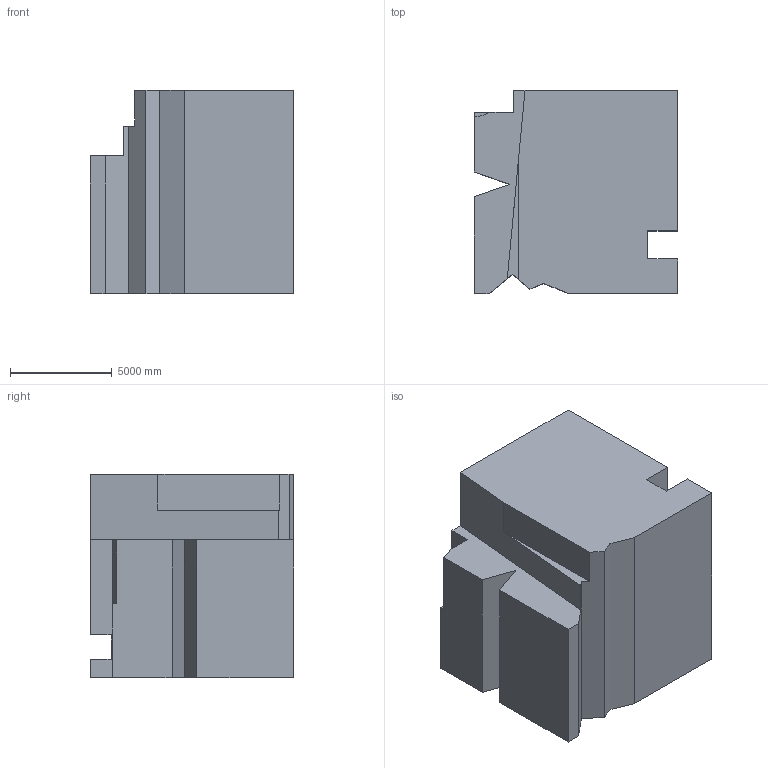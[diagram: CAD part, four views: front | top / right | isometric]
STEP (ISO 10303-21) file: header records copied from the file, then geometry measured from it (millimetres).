
FILE_DESCRIPTION (( 'STEP AP203' ), '1' );
FILE_NAME ('1933.STEP', '2022-08-23T09:38:57', ( 'user' ), ( '' ), 'SwSTEP 2.0', 'SolidWorks 2021', '' );
FILE_SCHEMA (( 'CONFIG_CONTROL_DESIGN' ));
Length unit declared in the file: centimetre
Products named in the file (1): 1933
Bounding box: 10000 x 10000 x 10000 mm (x, y, z)
Volume: 856524388523.8 mm3; surface area: 665574741 mm2
Topology: 1 solids, 1 shells, 34 faces, 93 edges, 62 vertices
Faces by surface type: plane 33, cylinder 1
Entity records: 1136 total; most frequent: CARTESIAN_POINT 190, ORIENTED_EDGE 186, DIRECTION 165, EDGE_CURVE 93, LINE 91, VECTOR 91, VERTEX_POINT 62, AXIS2_PLACEMENT_3D 37
